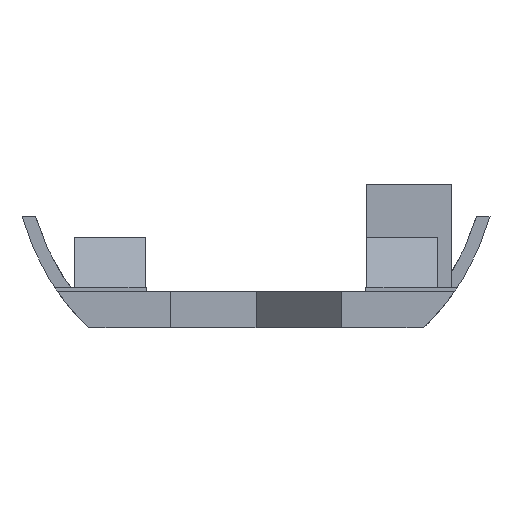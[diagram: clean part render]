
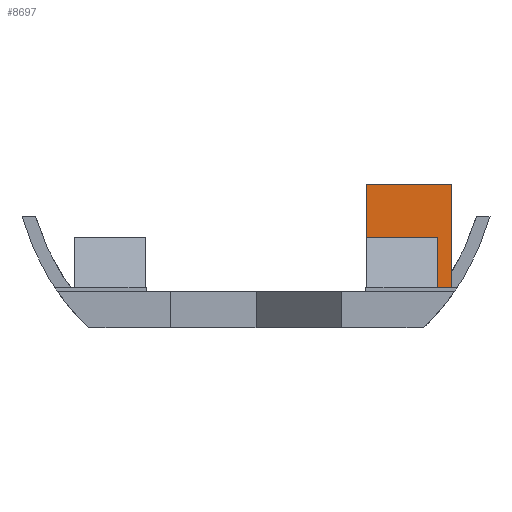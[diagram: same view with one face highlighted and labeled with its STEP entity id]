
A CAD part, left-side view. The second image highlights one B-rep face of the part: STEP entity #8697.
In plain terms, the highlighted planar face has unit normal (-1, 0, 0).
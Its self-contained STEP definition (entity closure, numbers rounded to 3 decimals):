
#32 = PLANE('',#33);
#33 = AXIS2_PLACEMENT_3D('',#34,#35,#36);
#34 = CARTESIAN_POINT('',(71.,-22.,-10.8));
#35 = DIRECTION('',(0.,0.,-1.));
#36 = DIRECTION('',(1.,0.,0.));
#2791 = VERTEX_POINT('',#2792);
#2792 = CARTESIAN_POINT('',(176.5,-8.5,-10.8));
#2807 = PLANE('',#2808);
#2808 = AXIS2_PLACEMENT_3D('',#2809,#2810,#2811);
#2809 = CARTESIAN_POINT('',(176.5,-8.5,-11.3));
#2810 = DIRECTION('',(-0.,1.,0.));
#2811 = DIRECTION('',(0.,0.,1.));
#2818 = EDGE_CURVE('',#2791,#2819,#2821,.T.);
#2819 = VERTEX_POINT('',#2820);
#2820 = CARTESIAN_POINT('',(176.5,-15.1,-10.8));
#2821 = SURFACE_CURVE('',#2822,(#2826,#2832),.PCURVE_S1.);
#2822 = LINE('',#2823,#2824);
#2823 = CARTESIAN_POINT('',(176.5,-18.55,-10.8));
#2824 = VECTOR('',#2825,1.);
#2825 = DIRECTION('',(0.,-1.,0.));
#2826 = PCURVE('',#32,#2827);
#2827 = DEFINITIONAL_REPRESENTATION('',(#2828),#2831);
#2828 = B_SPLINE_CURVE_WITH_KNOTS('',1,(#2829,#2830),.UNSPECIFIED.,.F.,
  .F.,(2,2),(-10.05,-3.45),.PIECEWISE_BEZIER_KNOTS.);
#2829 = CARTESIAN_POINT('',(105.5,-13.5));
#2830 = CARTESIAN_POINT('',(105.5,-6.9));
#2831 = ( GEOMETRIC_REPRESENTATION_CONTEXT(2) 
PARAMETRIC_REPRESENTATION_CONTEXT() REPRESENTATION_CONTEXT('2D SPACE',''
  ) );
#2832 = PCURVE('',#2833,#2838);
#2833 = PLANE('',#2834);
#2834 = AXIS2_PLACEMENT_3D('',#2835,#2836,#2837);
#2835 = CARTESIAN_POINT('',(176.5,-15.1,-11.3));
#2836 = DIRECTION('',(1.,0.,-0.));
#2837 = DIRECTION('',(0.,0.,1.));
#2838 = DEFINITIONAL_REPRESENTATION('',(#2839),#2842);
#2839 = B_SPLINE_CURVE_WITH_KNOTS('',1,(#2840,#2841),.UNSPECIFIED.,.F.,
  .F.,(2,2),(-10.05,-3.45),.PIECEWISE_BEZIER_KNOTS.);
#2840 = CARTESIAN_POINT('',(0.5,-6.6));
#2841 = CARTESIAN_POINT('',(0.5,0.));
#2842 = ( GEOMETRIC_REPRESENTATION_CONTEXT(2) 
PARAMETRIC_REPRESENTATION_CONTEXT() REPRESENTATION_CONTEXT('2D SPACE',''
  ) );
#2859 = PLANE('',#2860);
#2860 = AXIS2_PLACEMENT_3D('',#2861,#2862,#2863);
#2861 = CARTESIAN_POINT('',(176.5,-15.1,-11.3));
#2862 = DIRECTION('',(-0.,1.,0.));
#2863 = DIRECTION('',(0.,0.,1.));
#8649 = EDGE_CURVE('',#2791,#8650,#8652,.T.);
#8650 = VERTEX_POINT('',#8651);
#8651 = CARTESIAN_POINT('',(176.5,-8.5,-2.5));
#8652 = SURFACE_CURVE('',#8653,(#8657,#8664),.PCURVE_S1.);
#8653 = LINE('',#8654,#8655);
#8654 = CARTESIAN_POINT('',(176.5,-8.5,-11.3));
#8655 = VECTOR('',#8656,1.);
#8656 = DIRECTION('',(0.,0.,1.));
#8657 = PCURVE('',#2807,#8658);
#8658 = DEFINITIONAL_REPRESENTATION('',(#8659),#8663);
#8659 = LINE('',#8660,#8661);
#8660 = CARTESIAN_POINT('',(0.,0.));
#8661 = VECTOR('',#8662,1.);
#8662 = DIRECTION('',(1.,0.));
#8663 = ( GEOMETRIC_REPRESENTATION_CONTEXT(2) 
PARAMETRIC_REPRESENTATION_CONTEXT() REPRESENTATION_CONTEXT('2D SPACE',''
  ) );
#8664 = PCURVE('',#2833,#8665);
#8665 = DEFINITIONAL_REPRESENTATION('',(#8666),#8670);
#8666 = LINE('',#8667,#8668);
#8667 = CARTESIAN_POINT('',(0.,-6.6));
#8668 = VECTOR('',#8669,1.);
#8669 = DIRECTION('',(1.,0.));
#8670 = ( GEOMETRIC_REPRESENTATION_CONTEXT(2) 
PARAMETRIC_REPRESENTATION_CONTEXT() REPRESENTATION_CONTEXT('2D SPACE',''
  ) );
#8686 = PLANE('',#8687);
#8687 = AXIS2_PLACEMENT_3D('',#8688,#8689,#8690);
#8688 = CARTESIAN_POINT('',(176.5,-15.1,-2.5));
#8689 = DIRECTION('',(0.,0.,1.));
#8690 = DIRECTION('',(1.,0.,-0.));
#8697 = ADVANCED_FACE('',(#8698),#2833,.F.);
#8698 = FACE_BOUND('',#8699,.F.);
#8699 = EDGE_LOOP('',(#8700,#8723,#8724,#8725));
#8700 = ORIENTED_EDGE('',*,*,#8701,.F.);
#8701 = EDGE_CURVE('',#2819,#8702,#8704,.T.);
#8702 = VERTEX_POINT('',#8703);
#8703 = CARTESIAN_POINT('',(176.5,-15.1,-2.5));
#8704 = SURFACE_CURVE('',#8705,(#8709,#8716),.PCURVE_S1.);
#8705 = LINE('',#8706,#8707);
#8706 = CARTESIAN_POINT('',(176.5,-15.1,-11.3));
#8707 = VECTOR('',#8708,1.);
#8708 = DIRECTION('',(0.,0.,1.));
#8709 = PCURVE('',#2833,#8710);
#8710 = DEFINITIONAL_REPRESENTATION('',(#8711),#8715);
#8711 = LINE('',#8712,#8713);
#8712 = CARTESIAN_POINT('',(0.,0.));
#8713 = VECTOR('',#8714,1.);
#8714 = DIRECTION('',(1.,0.));
#8715 = ( GEOMETRIC_REPRESENTATION_CONTEXT(2) 
PARAMETRIC_REPRESENTATION_CONTEXT() REPRESENTATION_CONTEXT('2D SPACE',''
  ) );
#8716 = PCURVE('',#2859,#8717);
#8717 = DEFINITIONAL_REPRESENTATION('',(#8718),#8722);
#8718 = LINE('',#8719,#8720);
#8719 = CARTESIAN_POINT('',(0.,0.));
#8720 = VECTOR('',#8721,1.);
#8721 = DIRECTION('',(1.,0.));
#8722 = ( GEOMETRIC_REPRESENTATION_CONTEXT(2) 
PARAMETRIC_REPRESENTATION_CONTEXT() REPRESENTATION_CONTEXT('2D SPACE',''
  ) );
#8723 = ORIENTED_EDGE('',*,*,#2818,.F.);
#8724 = ORIENTED_EDGE('',*,*,#8649,.T.);
#8725 = ORIENTED_EDGE('',*,*,#8726,.F.);
#8726 = EDGE_CURVE('',#8702,#8650,#8727,.T.);
#8727 = SURFACE_CURVE('',#8728,(#8732,#8739),.PCURVE_S1.);
#8728 = LINE('',#8729,#8730);
#8729 = CARTESIAN_POINT('',(176.5,-15.1,-2.5));
#8730 = VECTOR('',#8731,1.);
#8731 = DIRECTION('',(-0.,1.,0.));
#8732 = PCURVE('',#2833,#8733);
#8733 = DEFINITIONAL_REPRESENTATION('',(#8734),#8738);
#8734 = LINE('',#8735,#8736);
#8735 = CARTESIAN_POINT('',(8.8,0.));
#8736 = VECTOR('',#8737,1.);
#8737 = DIRECTION('',(0.,-1.));
#8738 = ( GEOMETRIC_REPRESENTATION_CONTEXT(2) 
PARAMETRIC_REPRESENTATION_CONTEXT() REPRESENTATION_CONTEXT('2D SPACE',''
  ) );
#8739 = PCURVE('',#8686,#8740);
#8740 = DEFINITIONAL_REPRESENTATION('',(#8741),#8745);
#8741 = LINE('',#8742,#8743);
#8742 = CARTESIAN_POINT('',(0.,0.));
#8743 = VECTOR('',#8744,1.);
#8744 = DIRECTION('',(0.,1.));
#8745 = ( GEOMETRIC_REPRESENTATION_CONTEXT(2) 
PARAMETRIC_REPRESENTATION_CONTEXT() REPRESENTATION_CONTEXT('2D SPACE',''
  ) );
